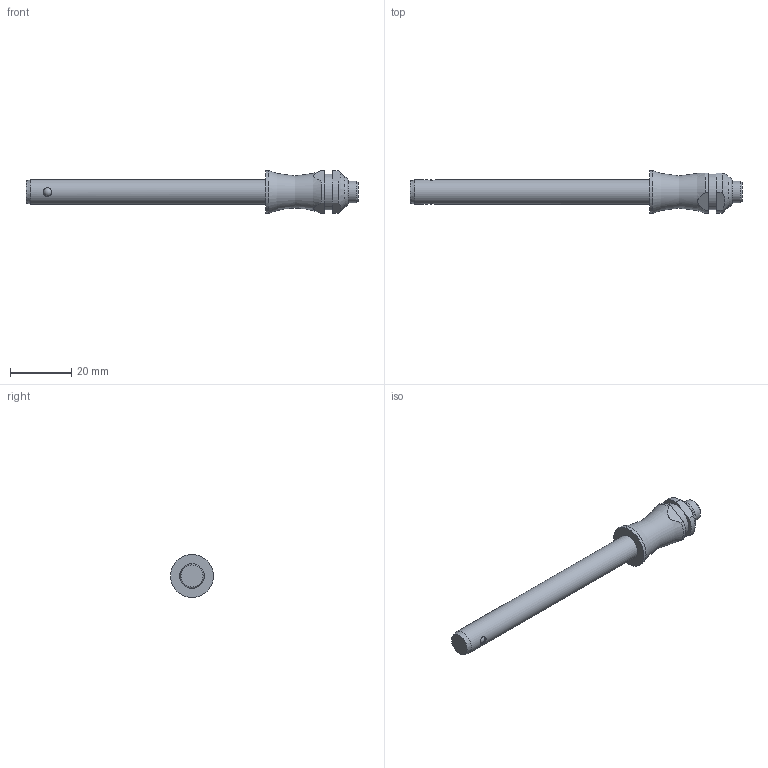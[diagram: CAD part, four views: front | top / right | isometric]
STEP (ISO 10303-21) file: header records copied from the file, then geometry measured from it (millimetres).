
FILE_DESCRIPTION( ( 'STEP AP203' ), '1' );
FILE_NAME( 'C:/Temp/Ganter_Step_05_03_2020/data/3_1/gn113_3/Stainless Steel-Ball lock pin GN 113.3-8-70 (activated).stp', '2020-03-12T08:18:28', ( 'License CC BY-ND 4.0' ), ( 'CADENAS' ), ' ', 'PARTsolutions', ' ' );
FILE_SCHEMA( ( 'CONFIG_CONTROL_DESIGN' ) );
Length unit declared in the file: millimetre
Products named in the file (1): _Stainless Steel-Ball lock pin GN 113.3-8-70 (activated)
Bounding box: 108.35 x 14 x 14 mm (x, y, z)
Volume: 7019.9 mm3; surface area: 3382.9 mm2
Topology: 1 solids, 1 shells, 30 faces, 72 edges, 45 vertices
Faces by surface type: cylinder 12, plane 11, cone 3, torus 2, sphere 2
Full cylindrical faces by diameter (mm): 2.78 x2, 7 x1, 8 x1, 11.6 x1, 14 x1
Entity records: 968 total; most frequent: CARTESIAN_POINT 321, DIRECTION 130, ORIENTED_EDGE 102, AXIS2_PLACEMENT_3D 56, EDGE_CURVE 51, EDGE_LOOP 46, VERTEX_POINT 39, FACE_OUTER_BOUND 38
